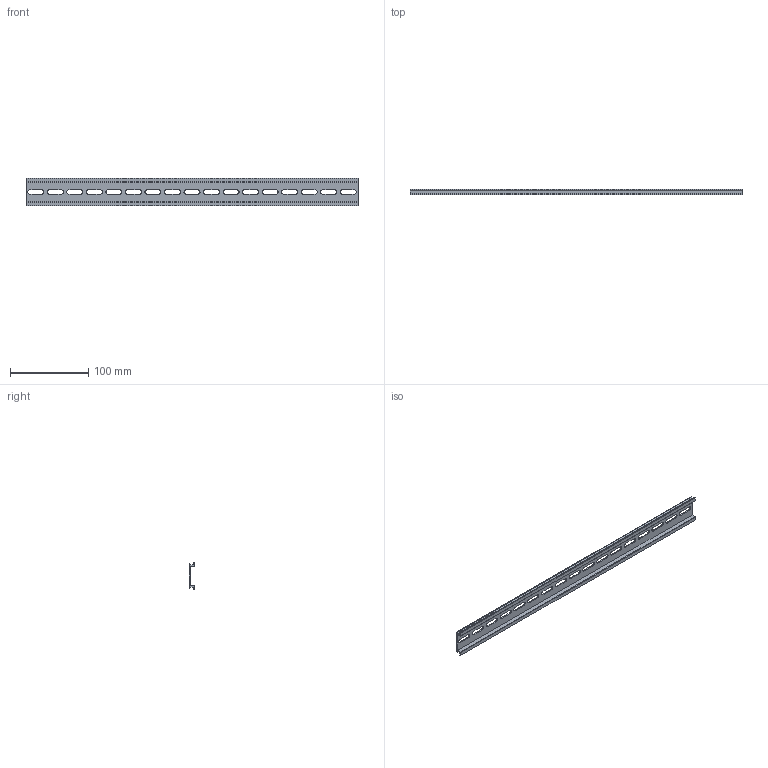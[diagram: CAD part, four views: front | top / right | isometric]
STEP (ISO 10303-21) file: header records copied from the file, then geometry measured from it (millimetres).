
FILE_DESCRIPTION( (''), '2;1');
FILE_NAME ('CVICAD02.15516.DIN-RAIL425_7439.stp','2020-09-01T14:18:38',(''),(''),'spGate 12.6.6','','');
FILE_SCHEMA (('AUTOMOTIVE_DESIGN'));
Length unit declared in the file: millimetre
Bounding box: 425 x 7.5 x 35 mm (x, y, z)
Volume: 30005 mm3; surface area: 40117.4 mm2
Topology: 1 solids, 1 shells, 88 faces, 258 edges, 172 vertices
Faces by surface type: plane 52, cylinder 36
Entity records: 5013 total; most frequent: CARTESIAN_POINT 518, ORIENTED_EDGE 516, DIRECTION 506, COLOUR_RGB 347, PRESENTATION_STYLE_ASSIGNMENT 347, STYLED_ITEM 347, EDGE_CURVE 258, DRAUGHTING_PRE_DEFINED_CURVE_FONT 258
